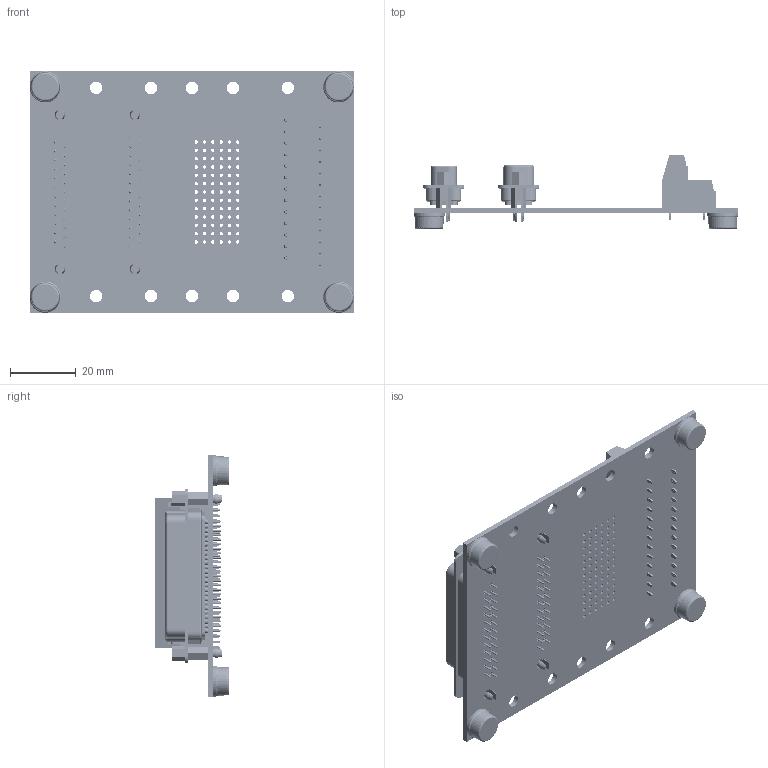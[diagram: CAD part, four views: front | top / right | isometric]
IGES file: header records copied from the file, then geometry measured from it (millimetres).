
Start section: SolidWorks IGES file using analytic representation for surfaces
Global section: file name: W:\end-user\products\brk\brkdd25mf\3dmodel\rev_a\render\brkdd25mf-s-ft_rev_a.igs; native system: SolidWorks 2018; preprocessor: SolidWorks 2018; author: leviroy; date: 240620.150153; units: inch
Bounding box: 99.06 x 22.6 x 73.66 mm (x, y, z)
Surface area: 40458.4 mm2 (no closed solid volume)
Topology: 0 solids, 0 shells, 9322 faces, 81487 edges, 81387 vertices
Faces by surface type: bspline 6369, revolution 2953
